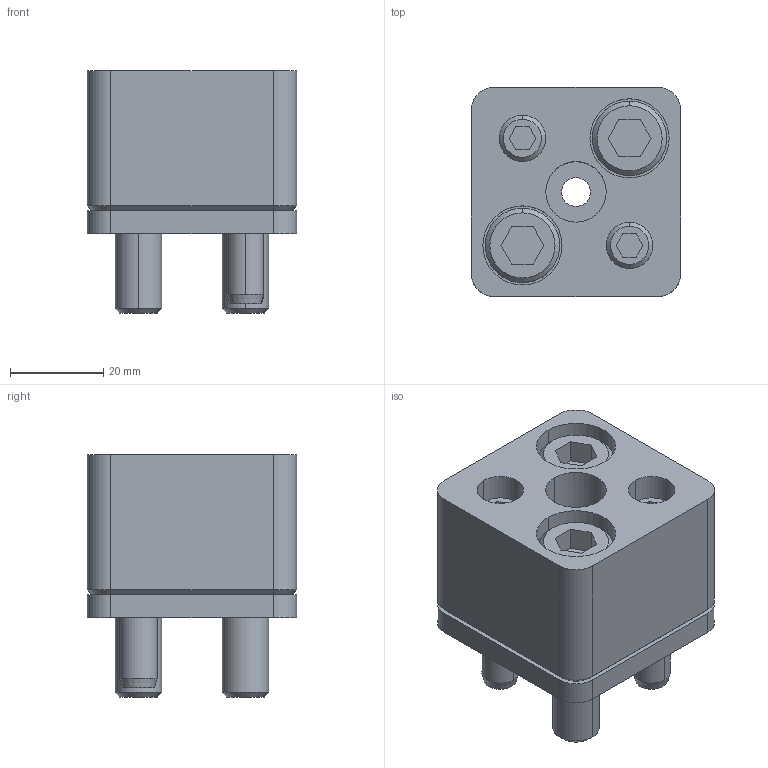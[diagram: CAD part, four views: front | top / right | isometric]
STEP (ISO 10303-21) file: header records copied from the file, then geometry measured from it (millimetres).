
FILE_DESCRIPTION(/* description */ (''),/* implementation_level */ '2;1');
FILE_NAME(/* name */ '3d_hsr-fp13_04203_r00.stp',/* time_stamp */ '2011-01-10T14:14:34+09:00',/* author */ ('MISUMI'),/* organization */ (''),/* preprocessor_version */ 'ST-DEVELOPER v11',/* originating_system */ 'UGS - NX 5.0',/* authorisation */ '');
FILE_SCHEMA (('CONFIG_CONTROL_DESIGN'));
Length unit declared in the file: millimetre
Products named in the file (1): 3d_hsr-fp13_04203_r00
Bounding box: 45 x 45 x 52 mm (x, y, z)
Volume: 64395.3 mm3; surface area: 26036.3 mm2
Topology: 8 solids, 8 shells, 167 faces, 380 edges, 243 vertices
Faces by surface type: plane 72, cylinder 65, cone 30
Entity records: 4856 total; most frequent: DIRECTION 866, CARTESIAN_POINT 850, ORIENTED_EDGE 760, EDGE_CURVE 380, AXIS2_PLACEMENT_3D 329, VERTEX_POINT 243, LINE 208, VECTOR 208
